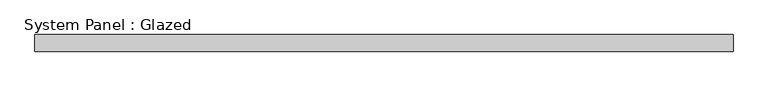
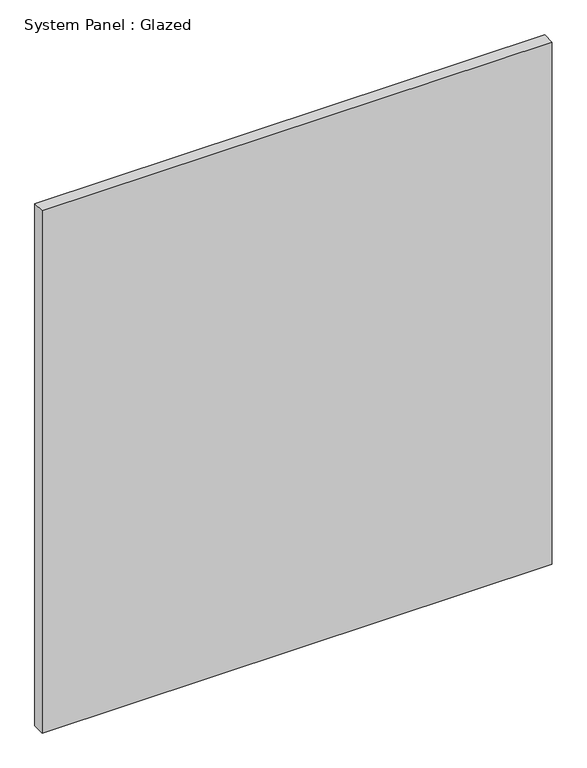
"""IFC4 building model written with IfcOpenShell, lengths in millimetres: plate geometry, System Panel : Glazed."""

from ifc_helpers import new_model, si_unit, origin, origin_with_axes, place, context, project, spatial, polyline, outline, extrude, source, transform, mapped, element, save


def system_panel_glazed_c2a5712b(model_context):
    return source(origin(), model_context, "Body", "SweptSolid", [
        extrude(outline(polyline([(519.3392857, 19.05), (-519.3392857, 19.05), (-519.3392857, 44.45), (519.3392857, 44.45), (519.3392857, 19.05)])), origin_with_axes(), (0.0, 0.0, 1.0), 1123.95),
    ])


if __name__ == "__main__":
    model = new_model("IFC4")
    model_context = context("Model", 3, world=origin())
    ifc_project = project(units=[si_unit("LENGTHUNIT", "METRE", prefix="MILLI")], contexts=[model_context])
    site = spatial("IfcSite", under=ifc_project)
    building = spatial("IfcBuilding", under=site)
    placement = place(None, origin())
    system_panel_glazed_shape = system_panel_glazed_c2a5712b(model_context)
    element("IfcPlate", 1, ObjectType="System Panel : Glazed", at=placement, inside=building, context=model_context, shape_type="MappedRepresentation", body=[
        mapped(system_panel_glazed_shape, transform((0.0, 0.0, 0.0), x_axis=(1.0, 0.0, 0.0), y_axis=(0.0, 1.0, 0.0), z_axis=(0.0, 0.0, 1.0))),
    ])
    save(model, "model.ifc")
